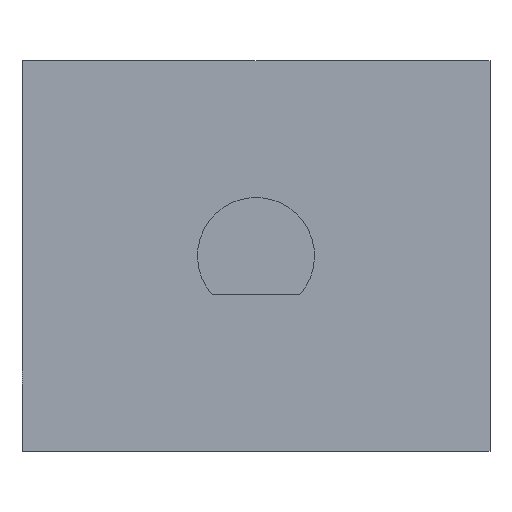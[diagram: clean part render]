
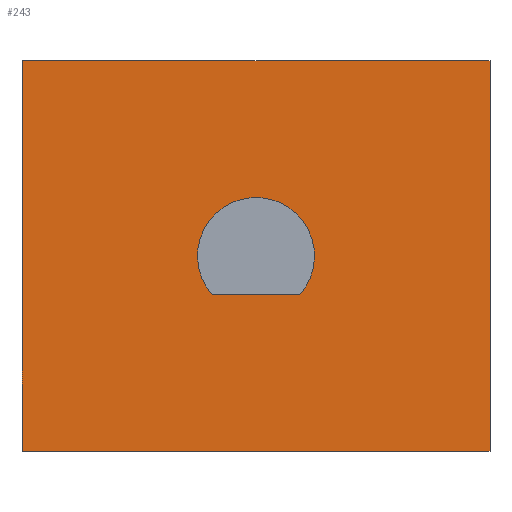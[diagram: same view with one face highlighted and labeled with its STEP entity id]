
A CAD part, left-side view. The second image highlights one B-rep face of the part: STEP entity #243.
In plain terms, the highlighted planar face has unit normal (-1, 0, 0).
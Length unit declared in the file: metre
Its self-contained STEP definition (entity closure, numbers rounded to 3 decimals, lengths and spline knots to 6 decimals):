
#15=CIRCLE('',#272,0.0015);
#23=ORIENTED_EDGE('',*,*,#91,.F.);
#24=ORIENTED_EDGE('',*,*,#92,.T.);
#25=ORIENTED_EDGE('',*,*,#93,.T.);
#26=ORIENTED_EDGE('',*,*,#94,.F.);
#27=ORIENTED_EDGE('',*,*,#95,.F.);
#28=ORIENTED_EDGE('',*,*,#96,.F.);
#91=EDGE_CURVE('',#125,#126,#147,.T.);
#92=EDGE_CURVE('',#125,#127,#148,.T.);
#93=EDGE_CURVE('',#127,#128,#149,.T.);
#94=EDGE_CURVE('',#126,#128,#150,.T.);
#95=EDGE_CURVE('',#129,#130,#15,.T.);
#96=EDGE_CURVE('',#130,#129,#151,.T.);
#125=VERTEX_POINT('',#371);
#126=VERTEX_POINT('',#372);
#127=VERTEX_POINT('',#374);
#128=VERTEX_POINT('',#376);
#129=VERTEX_POINT('',#379);
#130=VERTEX_POINT('',#380);
#147=LINE('',#370,#173);
#148=LINE('',#373,#174);
#149=LINE('',#375,#175);
#150=LINE('',#377,#176);
#151=LINE('',#381,#177);
#173=VECTOR('',#298,1.);
#174=VECTOR('',#299,1.);
#175=VECTOR('',#300,1.);
#176=VECTOR('',#301,1.);
#177=VECTOR('',#304,1.);
#199=EDGE_LOOP('',(#23,#24,#25,#26));
#200=EDGE_LOOP('',(#27,#28));
#215=FACE_BOUND('',#199,.T.);
#216=FACE_BOUND('',#200,.T.);
#231=PLANE('',#271);
#243=ADVANCED_FACE('',(#215,#216),#231,.F.);
#271=AXIS2_PLACEMENT_3D('',#369,#296,#297);
#272=AXIS2_PLACEMENT_3D('',#378,#302,#303);
#296=DIRECTION('',(1.,0.,0.));
#297=DIRECTION('',(0.,1.,0.));
#298=DIRECTION('',(0.,-1.,0.));
#299=DIRECTION('',(0.,0.,-1.));
#300=DIRECTION('',(0.,-1.,0.));
#301=DIRECTION('',(0.,0.,-1.));
#302=DIRECTION('',(-1.,0.,0.));
#303=DIRECTION('',(0.,-1.,0.));
#304=DIRECTION('',(0.,-1.,0.));
#369=CARTESIAN_POINT('',(0.010045,0.0225,0.0111));
#370=CARTESIAN_POINT('',(0.010045,0.017842,0.0161));
#371=CARTESIAN_POINT('',(0.010045,0.0285,0.0161));
#372=CARTESIAN_POINT('',(0.010045,0.0165,0.0161));
#373=CARTESIAN_POINT('',(0.010045,0.0285,0.0136));
#374=CARTESIAN_POINT('',(0.010045,0.0285,0.0061));
#375=CARTESIAN_POINT('',(0.010045,0.0225,0.0061));
#376=CARTESIAN_POINT('',(0.010045,0.0165,0.0061));
#377=CARTESIAN_POINT('',(0.010045,0.0165,0.0136));
#378=CARTESIAN_POINT('',(0.010045,0.0225,0.0111));
#379=CARTESIAN_POINT('',(0.010045,0.021382,0.0101));
#380=CARTESIAN_POINT('',(0.010045,0.023618,0.0101));
#381=CARTESIAN_POINT('',(0.010045,0.021941,0.0101));
